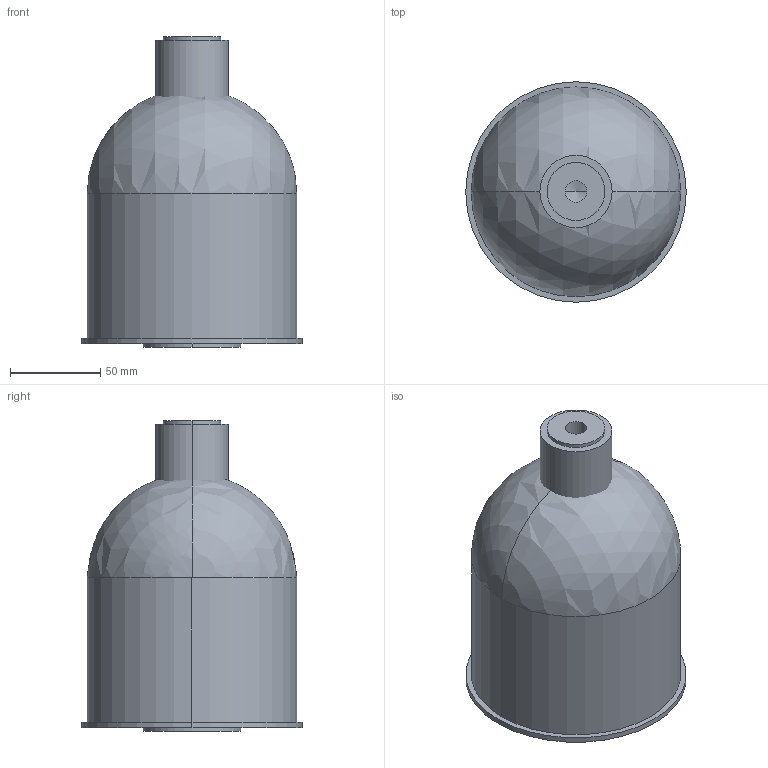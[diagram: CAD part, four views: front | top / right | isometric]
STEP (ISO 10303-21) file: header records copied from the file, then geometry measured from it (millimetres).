
FILE_DESCRIPTION(('STEP AP214'),'1');
FILE_NAME('U:/VDI-Daten/9876_PN6/9876-PN6-DN25.STP','2012-06-28T08:15:50',(' '),(' '),'Spatial InterOp 3D',' ',' ');
FILE_SCHEMA(('automotive_design'));
Length unit declared in the file: millimetre
Products named in the file (8): 3D-Objekt
Bounding box: 122 x 122 x 172 mm (x, y, z)
Volume: 1142895.3 mm3; surface area: 160076.1 mm2
Topology: 8 solids, 8 shells, 45 faces, 95 edges, 57 vertices
Faces by surface type: cylinder 20, plane 19, sphere 4, cone 2
Entity records: 1714 total; most frequent: DIRECTION 236, CARTESIAN_POINT 195, ORIENTED_EDGE 170, AXIS2_PLACEMENT_3D 98, EDGE_CURVE 85, VERTEX_POINT 57, EDGE_LOOP 54, STYLED_ITEM 53
